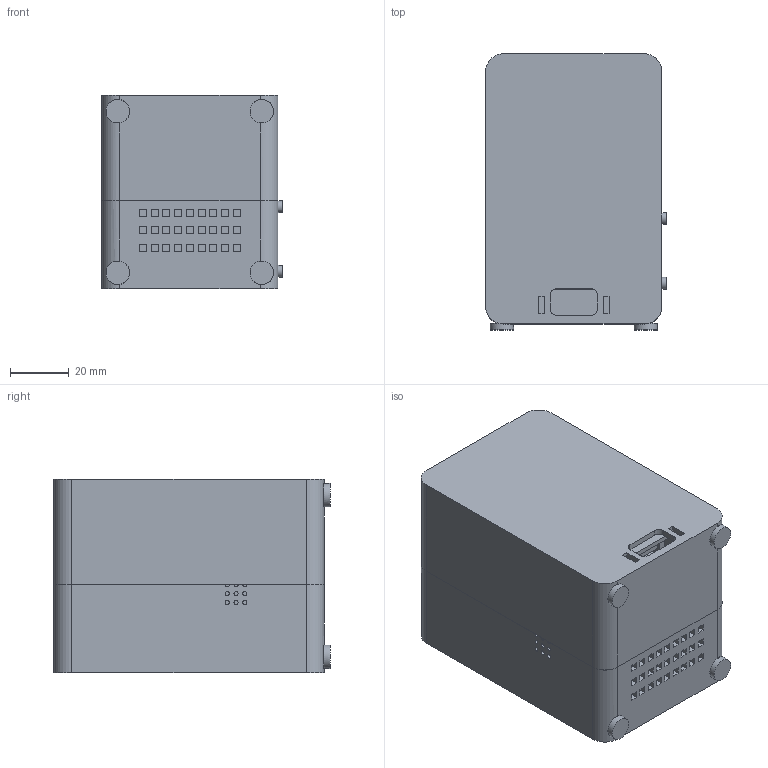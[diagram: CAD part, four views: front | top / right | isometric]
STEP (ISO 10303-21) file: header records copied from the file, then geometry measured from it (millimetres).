
FILE_DESCRIPTION(('Open CASCADE Model'),'2;1');
FILE_NAME('Open CASCADE Shape Model','2026-11-09T21:30:06',('Author'),( 'Open CASCADE'),'Open CASCADE STEP processor 8.0','Open CASCADE 8.0' ,'Unknown');
FILE_SCHEMA(('AUTOMOTIVE_DESIGN { 1 0 10303 214 1 1 1 1 }'));
Length unit declared in the file: millimetre
Products named in the file (65): Open CASCADE STEP translator 8.0 13; Open CASCADE STEP translator 8.0 14; Open CASCADE STEP translator 8.0 15; Open CASCADE STEP translator 8.0 16; Open CASCADE STEP translator 8.0 17; Open CASCADE STEP translator 8.0 18; Open CASCADE STEP translator 8.0 19; Open CASCADE STEP translator 8.0 20; Open CASCADE STEP translator 8.0 21; Open CASCADE STEP translator 8.0 22; Open CASCADE STEP translator 8.0 23; Open CASCADE STEP translator 8.0 24; Open CASCADE STEP translator 8.0 25; Open CASCADE STEP translator 8.0 26; Open CASCADE STEP translator 8.0 27; Open CASCADE STEP translator 8.0 28; Open CASCADE STEP translator 8.0 29; Open CASCADE STEP translator 8.0 30; Open CASCADE STEP translator 8.0 31; Open CASCADE STEP translator 8.0 32; Open CASCADE STEP translator 8.0 33; Open CASCADE STEP translator 8.0 34; Open CASCADE STEP translator 8.0 35; Open CASCADE STEP translator 8.0 36; Open CASCADE STEP translator 8.0 37; Open CASCADE STEP translator 8.0 38; Open CASCADE STEP translator 8.0 39; Open CASCADE STEP translator 8.0 40; Open CASCADE STEP translator 8.0 41; Open CASCADE STEP translator 8.0 42; Open CASCADE STEP translator 8.0 43; Open CASCADE STEP translator 8.0 44; Open CASCADE STEP translator 8.0 45; Open CASCADE STEP translator 8.0 46; Open CASCADE STEP translator 8.0 47; Open CASCADE STEP translator 8.0 48; Open CASCADE STEP translator 8.0 49; Open CASCADE STEP translator 8.0 50; Open CASCADE STEP translator 8.0 51; Open CASCADE STEP translator 8.0 52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
Bounding box: 61.5 x 94 x 66 mm (x, y, z)
Volume: 124549.6 mm3; surface area: 114002.3 mm2
Topology: 65 solids, 65 shells, 1080 faces, 2537 edges, 1634 vertices
Faces by surface type: plane 857, cylinder 223
Full cylindrical faces by diameter (mm): 1.4 x6, 1.6 x21, 2 x21, 2.2 x21, 2.5 x2, 4 x33, 4.2 x8, 4.4 x1, 5 x7, 5.6 x3, 6 x1, 7 x1, 8 x4, 12 x1
Entity records: 63606 total; most frequent: CARTESIAN_POINT 12498, DIRECTION 8939, ORIENTED_EDGE 5074, PCURVE 5074, DEFINITIONAL_REPRESENTATION 5074, LINE 4839, VECTOR 4839, EDGE_CURVE 2537
